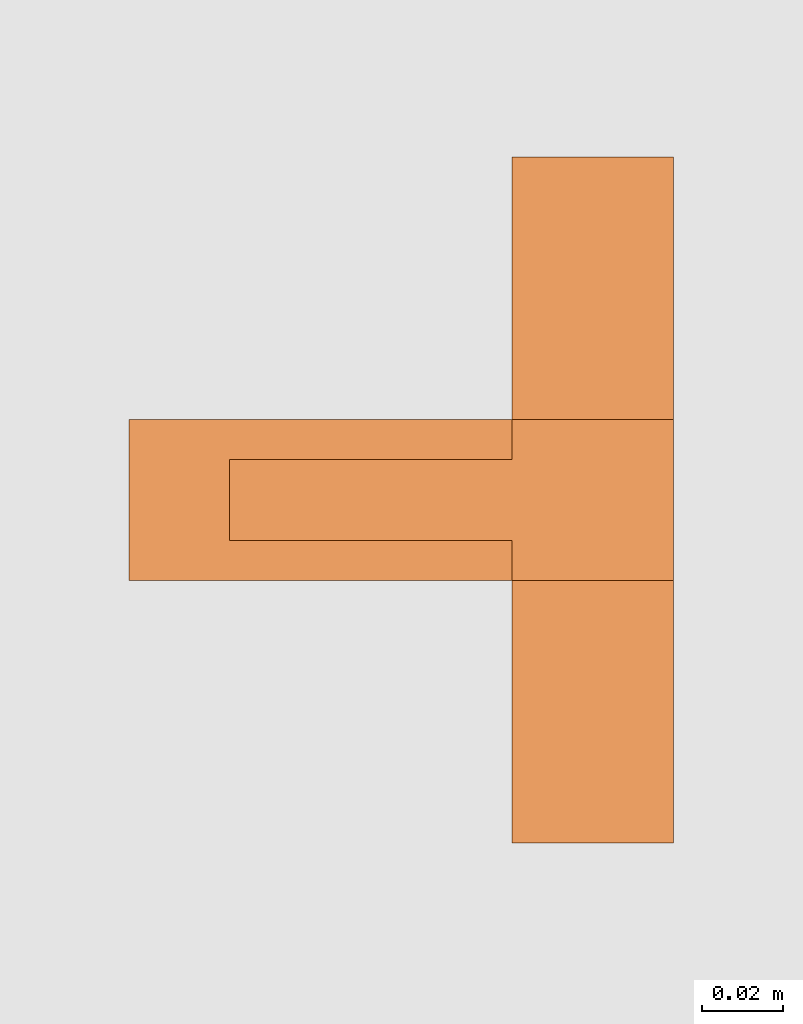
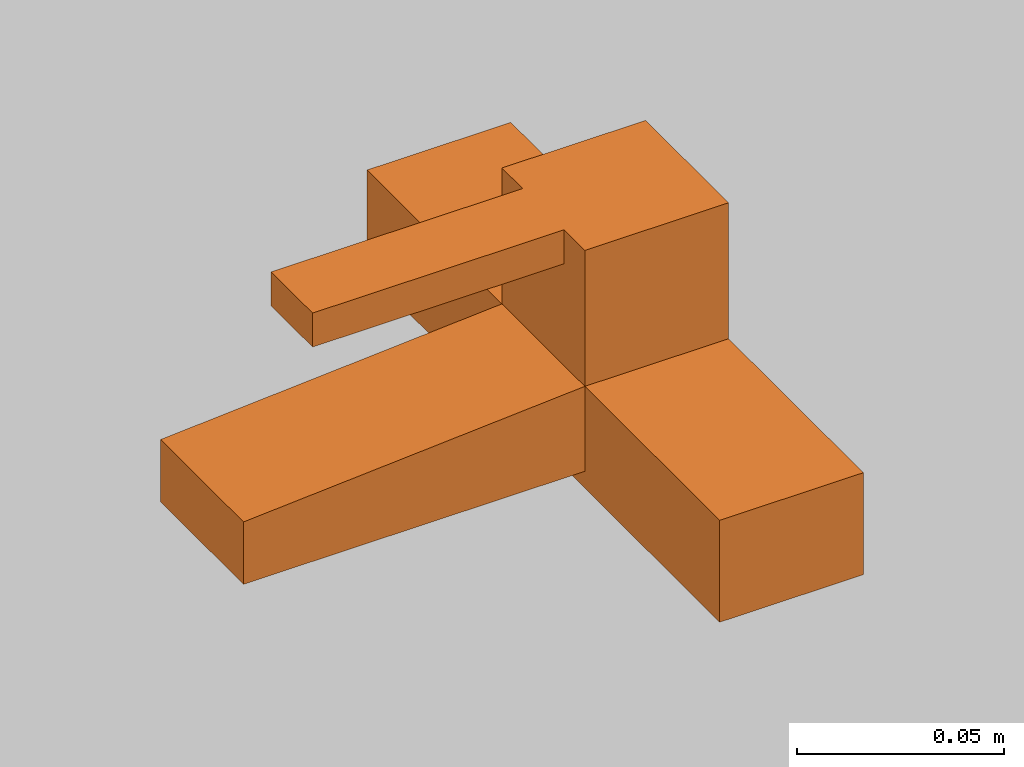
# One storey, part 108 of 112: 1 proxy.
"""IFC2X3 building model written with IfcOpenShell, lengths in millimetres."""

from ifc_helpers import new_model, entity, si_unit, converted_unit, derived_unit, money_unit, direction, frame, origin_with_axes, place, context, subcontext, project, spatial, faceted_brep, type_object, element, save


model = new_model("IFC2X3")

# Units and contexts
model_context = context("Model", 3, precision=0.01, world=origin_with_axes(), true_north=direction((0.0, 1.0)))
body_context = subcontext(model_context, "Body", "Model", "MODEL_VIEW")
ifc_project = project(units=[si_unit("LENGTHUNIT", "METRE", prefix="MILLI"), si_unit("AREAUNIT", "SQUARE_METRE"), si_unit("VOLUMEUNIT", "CUBIC_METRE"), converted_unit("PLANEANGLEUNIT", "DEGREE", entity("IfcPlaneAngleMeasure", 0.0174532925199), si_unit("PLANEANGLEUNIT", "RADIAN"), dimensions=[0, 0, 0, 0, 0, 0, 0]), si_unit("SOLIDANGLEUNIT", "STERADIAN"), money_unit("EUR"), converted_unit("TIMEUNIT", "Year", entity("IfcTimeMeasure", 31556926.0), si_unit("TIMEUNIT", "SECOND"), dimensions=[0, 0, 1, 0, 0, 0, 0]), si_unit("MASSUNIT", "GRAM", prefix="KILO"), si_unit("THERMODYNAMICTEMPERATUREUNIT", "DEGREE_CELSIUS"), si_unit("LUMINOUSINTENSITYUNIT", "LUMEN"), si_unit("ENERGYUNIT", "JOULE", prefix="MEGA"), derived_unit("THERMALCONDUCTANCEUNIT", [(si_unit("POWERUNIT", "WATT"), 1), (si_unit("LENGTHUNIT", "METRE"), -1), (si_unit("THERMODYNAMICTEMPERATUREUNIT", "KELVIN"), -1)]), derived_unit("SPECIFICHEATCAPACITYUNIT", [(si_unit("ENERGYUNIT", "JOULE"), 1), (si_unit("MASSUNIT", "GRAM", prefix="KILO"), -1), (si_unit("THERMODYNAMICTEMPERATUREUNIT", "KELVIN"), -1)]), derived_unit("MASSDENSITYUNIT", [(si_unit("MASSUNIT", "GRAM", prefix="KILO"), 1), (si_unit("VOLUMEUNIT", "CUBIC_METRE"), -1)])], contexts=[model_context])

# Site, building, storey
site_placement = place(None, origin_with_axes())
site = spatial("IfcSite", under=ifc_project, at=site_placement, Name="Politse- ja Piirivalveameti ning Päästeameti ühishoone", CompositionType="ELEMENT")
building_placement = place(site_placement, origin_with_axes())
building = spatial("IfcBuilding", under=site, at=building_placement, Name="Politse- ja Piirivalveameti ning Päästeameti ühishoone", CompositionType="ELEMENT")
storey_placement = place(building_placement, origin_with_axes())
storey = spatial("IfcBuildingStorey", under=building, at=storey_placement, Name="Esimene korrus", CompositionType="ELEMENT", Elevation=0.0)

# Proxy
building_element_proxy_type = type_object("IfcBuildingElementProxyType", Name="Wall Mounted Tap 23", PredefinedType="NOTDEFINED")
proxy_placement = place(storey_placement, frame((23090.7394524, 18818.6088178, 500.0), z_axis=(0.0, 0.0, 1.0), x_axis=(0.0, -1.0, 0.0)))
element("IfcBuildingElementProxy", 1, at=proxy_placement, inside=storey, type_object=building_element_proxy_type, Name="Veekraan", context=body_context, shape_type="Brep", body=[
    faceted_brep([(85.0, 0.0, 1185.0), (85.0, -40.0, 1185.0), (-85.0, -40.0, 1185.0), (-85.0, 0.0, 1185.0), (85.0, 0.0, 1215.0), (85.0, -40.0, 1215.0), (-85.0, -40.0, 1215.0), (-85.0, 0.0, 1215.0)], [[[0, 1, 2, 3]], [[0, 4, 5, 1]], [[1, 5, 6, 2]], [[3, 2, 6, 7]], [[4, 0, 3, 7]], [[5, 4, 7, 6]]]),
    faceted_brep([(20.0, -40.0, 1190.0), (20.0, -135.0, 1190.0), (-20.0, -135.0, 1190.0), (-20.0, -40.0, 1190.0), (20.0, -40.0, 1215.0), (20.0, -135.0, 1208.35695287), (-20.0, -135.0, 1208.35695287), (-20.0, -40.0, 1215.0)], [[[0, 1, 2, 3]], [[0, 4, 5, 1]], [[1, 5, 6, 2]], [[3, 2, 6, 7]], [[4, 0, 3, 7]], [[5, 4, 7, 6]]]),
    faceted_brep([(20.0, 0.0, 1215.0), (20.0, -40.0, 1215.0), (-20.0, -40.0, 1215.0), (-20.0, 0.0, 1215.0), (20.0, 0.0, 1255.0), (20.0, -40.0, 1255.0), (-20.0, -40.0, 1255.0), (-20.0, 0.0, 1255.0)], [[[0, 1, 2, 3]], [[0, 4, 5, 1]], [[1, 5, 6, 2]], [[3, 2, 6, 7]], [[4, 0, 3, 7]], [[5, 4, 7, 6]]]),
    faceted_brep([(10.0, -40.0, 1245.0), (10.0, -110.0, 1245.0), (-10.0, -110.0, 1245.0), (-10.0, -40.0, 1245.0), (10.0, -40.0, 1255.0), (10.0, -110.0, 1255.0), (-10.0, -110.0, 1255.0), (-10.0, -40.0, 1255.0)], [[[0, 1, 2, 3]], [[0, 4, 5, 1]], [[1, 5, 6, 2]], [[3, 2, 6, 7]], [[4, 0, 3, 7]], [[5, 4, 7, 6]]]),
])

save(model, "model.ifc")
